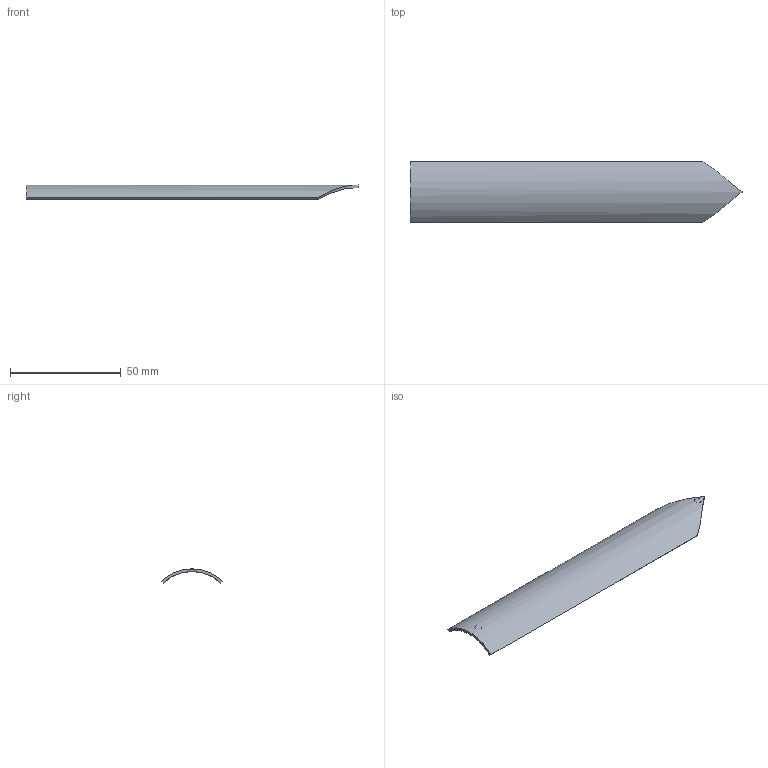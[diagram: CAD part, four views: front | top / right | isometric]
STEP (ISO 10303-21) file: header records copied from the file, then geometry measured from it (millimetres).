
FILE_DESCRIPTION(('Open CASCADE Model'),'2;1');
FILE_NAME('Open CASCADE Shape Model','2026-10-04T21:26:21',('Author'),( 'Open CASCADE'),'Open CASCADE STEP processor 7.9','Open CASCADE 7.9' ,'Unknown');
FILE_SCHEMA(('AUTOMOTIVE_DESIGN { 1 0 10303 214 1 1 1 1 }'));
Length unit declared in the file: millimetre
Products named in the file (1): Open CASCADE STEP translator 7.9 14
Bounding box: 149.71 x 27.57 x 6.38 mm (x, y, z)
Volume: 4968.7 mm3; surface area: 8731.1 mm2
Topology: 1 solids, 1 shells, 18 faces, 42 edges, 28 vertices
Faces by surface type: plane 12, cylinder 4, bspline 2
Entity records: 1664 total; most frequent: CARTESIAN_POINT 847, DIRECTION 138, ORIENTED_EDGE 84, PCURVE 84, DEFINITIONAL_REPRESENTATION 84, LINE 70, VECTOR 70, EDGE_CURVE 42
